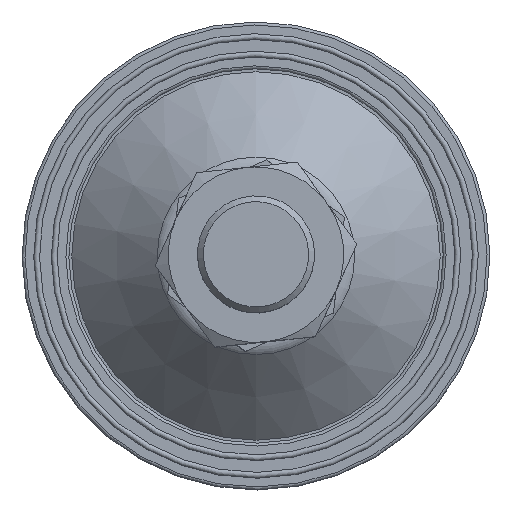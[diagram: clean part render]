
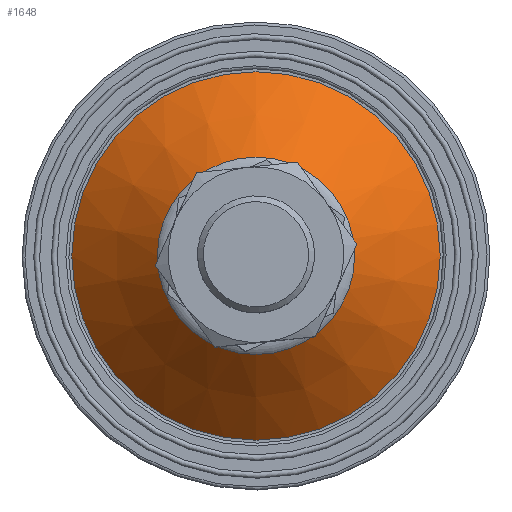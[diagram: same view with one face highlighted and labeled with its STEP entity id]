
A CAD part, top view. The second image highlights one B-rep face of the part: STEP entity #1648.
In plain terms, the highlighted conical face has half-angle 45.939 degrees and reference radius 23.75 mm.
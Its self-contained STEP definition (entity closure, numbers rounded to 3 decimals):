
#1606=CARTESIAN_POINT('',(-8.045,-57.396,3.442));
#1607=VERTEX_POINT('',#1606);
#1608=CARTESIAN_POINT('',(-8.045,-40.524,3.442));
#1609=DIRECTION('',(0.0,0.0,1.0));
#1610=DIRECTION('',(0.0,1.0,0.0));
#1611=AXIS2_PLACEMENT_3D('',#1608,#1609,#1610);
#1612=CIRCLE('',#1611,16.872);
#1613=EDGE_CURVE('',#1607,#1607,#1612,.T.);
#1629=CARTESIAN_POINT('',(-8.045,-40.524,-3.214));
#1630=DIRECTION('',(0.,0.,-1.0));
#1631=DIRECTION('',(0.0,-1.0,0.0));
#1632=AXIS2_PLACEMENT_3D('',#1629,#1630,#1631);
#1633=CONICAL_SURFACE('',#1632,23.75,45.939);
#1634=CARTESIAN_POINT('',(-8.045,-72.024,-10.714));
#1635=VERTEX_POINT('',#1634);
#1636=CARTESIAN_POINT('',(-8.045,-40.524,-10.714));
#1637=DIRECTION('',(0.0,0.0,1.0));
#1638=DIRECTION('',(0.0,-1.0,0.0));
#1639=AXIS2_PLACEMENT_3D('',#1636,#1637,#1638);
#1640=CIRCLE('',#1639,31.5);
#1641=EDGE_CURVE('',#1635,#1635,#1640,.T.);
#1642=ORIENTED_EDGE('',*,*,#1641,.T.);
#1643=EDGE_LOOP('',(#1642));
#1644=FACE_OUTER_BOUND('',#1643,.T.);
#1645=ORIENTED_EDGE('',*,*,#1613,.F.);
#1646=EDGE_LOOP('',(#1645));
#1647=FACE_BOUND('',#1646,.T.);
#1648=ADVANCED_FACE('',(#1644,#1647),#1633,.T.);
